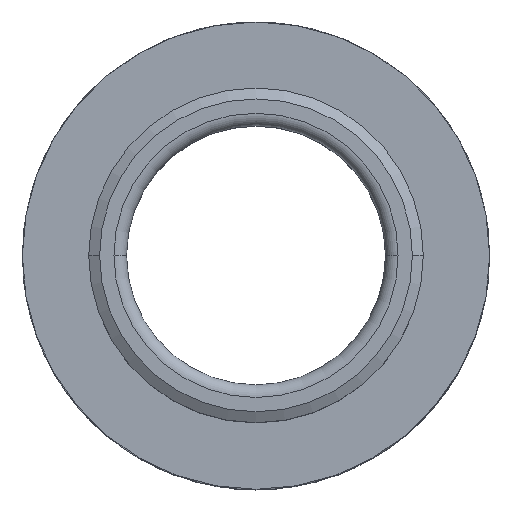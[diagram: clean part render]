
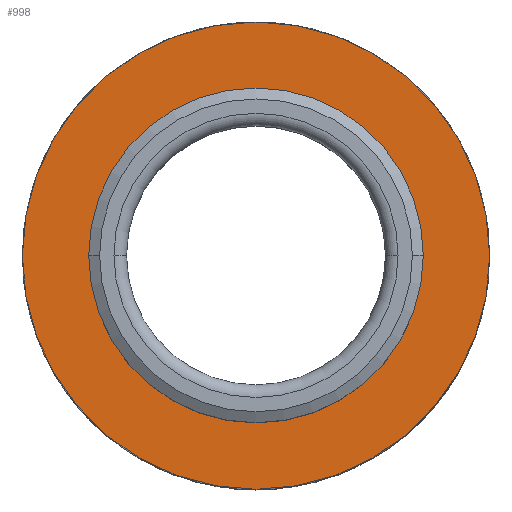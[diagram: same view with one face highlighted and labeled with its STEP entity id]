
A CAD part, top view. The second image highlights one B-rep face of the part: STEP entity #998.
In plain terms, the highlighted planar face has unit normal (0, 0, 1).
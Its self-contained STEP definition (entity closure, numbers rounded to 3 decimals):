
#135 = CIRCLE ( 'NONE', #5390, 12. ) ;
#278 = CARTESIAN_POINT ( 'NONE',  ( -12., 0., -13. ) ) ;
#371 = CARTESIAN_POINT ( 'NONE',  ( 0., 0., -13. ) ) ;
#412 = DIRECTION ( 'NONE',  ( 0., 0., 1. ) ) ;
#484 = FACE_OUTER_BOUND ( 'NONE', #6194, .T. ) ;
#584 = DIRECTION ( 'NONE',  ( 0., 0., 1. ) ) ;
#988 = ORIENTED_EDGE ( 'NONE', *, *, #3616, .T. ) ;
#998 = ADVANCED_FACE ( 'NONE', ( #2947, #484 ), #3185, .F. ) ;
#1116 = ORIENTED_EDGE ( 'NONE', *, *, #1566, .F. ) ;
#1257 = EDGE_CURVE ( 'NONE', #3353, #6031, #2636, .T. ) ;
#1566 = EDGE_CURVE ( 'NONE', #2543, #1950, #3992, .T. ) ;
#1790 = CARTESIAN_POINT ( 'NONE',  ( -12., 0., -13. ) ) ;
#1828 = DIRECTION ( 'NONE',  ( -1., 0., 0. ) ) ;
#1950 = VERTEX_POINT ( 'NONE', #5745 ) ;
#1993 = ORIENTED_EDGE ( 'NONE', *, *, #3946, .F. ) ;
#2265 = DIRECTION ( 'NONE',  ( 0., 0., -1. ) ) ;
#2326 = DIRECTION ( 'NONE',  ( 0., 0., 1. ) ) ;
#2543 = VERTEX_POINT ( 'NONE', #278 ) ;
#2636 = CIRCLE ( 'NONE', #2908, 18.5 ) ;
#2908 = AXIS2_PLACEMENT_3D ( 'NONE', #2990, #584, #3475 ) ;
#2922 = AXIS2_PLACEMENT_3D ( 'NONE', #371, #412, #4265 ) ;
#2947 = FACE_BOUND ( 'NONE', #6044, .T. ) ;
#2990 = CARTESIAN_POINT ( 'NONE',  ( 0., 0., -13. ) ) ;
#3185 = PLANE ( 'NONE',  #4319 ) ;
#3353 = VERTEX_POINT ( 'NONE', #3548 ) ;
#3475 = DIRECTION ( 'NONE',  ( 1., 0., 0. ) ) ;
#3548 = CARTESIAN_POINT ( 'NONE',  ( 18.5, 0., -13. ) ) ;
#3616 = EDGE_CURVE ( 'NONE', #6031, #3353, #5402, .T. ) ;
#3700 = DIRECTION ( 'NONE',  ( 1., 0., 0. ) ) ;
#3806 = AXIS2_PLACEMENT_3D ( 'NONE', #4729, #2326, #3834 ) ;
#3834 = DIRECTION ( 'NONE',  ( 1., 0., 0. ) ) ;
#3946 = EDGE_CURVE ( 'NONE', #1950, #2543, #135, .T. ) ;
#3992 = CIRCLE ( 'NONE', #2922, 12. ) ;
#4171 = CARTESIAN_POINT ( 'NONE',  ( 0., 0., -13. ) ) ;
#4265 = DIRECTION ( 'NONE',  ( 1., 0., 0. ) ) ;
#4319 = AXIS2_PLACEMENT_3D ( 'NONE', #1790, #2265, #1828 ) ;
#4729 = CARTESIAN_POINT ( 'NONE',  ( 0., 0., -13. ) ) ;
#5101 = ORIENTED_EDGE ( 'NONE', *, *, #1257, .T. ) ;
#5109 = CARTESIAN_POINT ( 'NONE',  ( -18.5, 0., -13. ) ) ;
#5138 = DIRECTION ( 'NONE',  ( 0., 0., 1. ) ) ;
#5390 = AXIS2_PLACEMENT_3D ( 'NONE', #4171, #5138, #3700 ) ;
#5402 = CIRCLE ( 'NONE', #3806, 18.5 ) ;
#5745 = CARTESIAN_POINT ( 'NONE',  ( 12., 0., -13. ) ) ;
#6031 = VERTEX_POINT ( 'NONE', #5109 ) ;
#6044 = EDGE_LOOP ( 'NONE', ( #1993, #1116 ) ) ;
#6194 = EDGE_LOOP ( 'NONE', ( #5101, #988 ) ) ;
